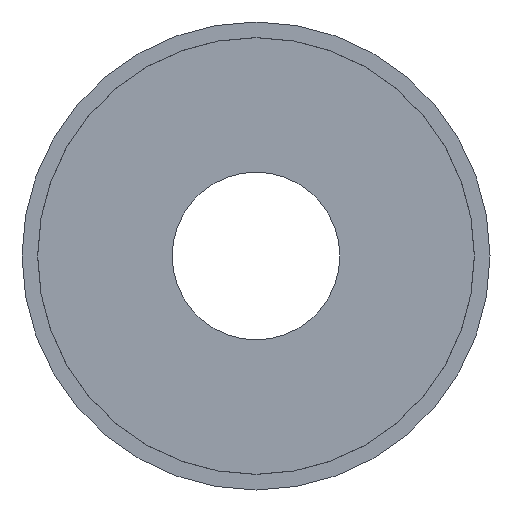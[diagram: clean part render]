
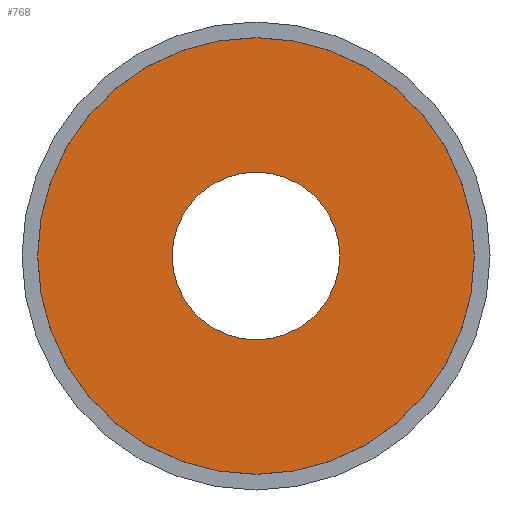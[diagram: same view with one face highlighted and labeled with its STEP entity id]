
A CAD part, front view. The second image highlights one B-rep face of the part: STEP entity #768.
In plain terms, the highlighted planar face has unit normal (0, -1, 0).
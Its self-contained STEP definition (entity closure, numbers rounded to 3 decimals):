
#23 = CARTESIAN_POINT ( 'NONE',  ( 0., -15., -27.99 ) ) ;
#24 = EDGE_LOOP ( 'NONE', ( #78, #54 ) ) ;
#25 = DIRECTION ( 'NONE',  ( -1., 0., 0. ) ) ;
#29 = DIRECTION ( 'NONE',  ( 0., 1., 0. ) ) ;
#54 = ORIENTED_EDGE ( 'NONE', *, *, #565, .T. ) ;
#78 = ORIENTED_EDGE ( 'NONE', *, *, #932, .T. ) ;
#101 = EDGE_CURVE ( 'NONE', #548, #140, #594, .T. ) ;
#119 = DIRECTION ( 'NONE',  ( 0., -1., 0. ) ) ;
#140 = VERTEX_POINT ( 'NONE', #23 ) ;
#154 = CIRCLE ( 'NONE', #427, 10.75 ) ;
#173 = DIRECTION ( 'NONE',  ( 0., -1., 0. ) ) ;
#183 = VERTEX_POINT ( 'NONE', #828 ) ;
#195 = FACE_BOUND ( 'NONE', #24, .T. ) ;
#222 = AXIS2_PLACEMENT_3D ( 'NONE', #797, #119, #338 ) ;
#224 = DIRECTION ( 'NONE',  ( 0., 1., 0. ) ) ;
#275 = DIRECTION ( 'NONE',  ( -1., 0., 0. ) ) ;
#296 = CARTESIAN_POINT ( 'NONE',  ( 0., -15., 0. ) ) ;
#319 = CARTESIAN_POINT ( 'NONE',  ( 0., -15., 27.99 ) ) ;
#333 = AXIS2_PLACEMENT_3D ( 'NONE', #296, #224, #275 ) ;
#336 = VERTEX_POINT ( 'NONE', #865 ) ;
#338 = DIRECTION ( 'NONE',  ( 0., 0., -1. ) ) ;
#354 = ORIENTED_EDGE ( 'NONE', *, *, #826, .T. ) ;
#401 = CIRCLE ( 'NONE', #222, 27.99 ) ;
#427 = AXIS2_PLACEMENT_3D ( 'NONE', #549, #29, #25 ) ;
#433 = FACE_OUTER_BOUND ( 'NONE', #639, .T. ) ;
#480 = DIRECTION ( 'NONE',  ( 1., 0., 0. ) ) ;
#495 = CIRCLE ( 'NONE', #333, 10.75 ) ;
#506 = AXIS2_PLACEMENT_3D ( 'NONE', #613, #771, #608 ) ;
#548 = VERTEX_POINT ( 'NONE', #319 ) ;
#549 = CARTESIAN_POINT ( 'NONE',  ( 0., -15., 0. ) ) ;
#565 = EDGE_CURVE ( 'NONE', #183, #336, #154, .T. ) ;
#582 = AXIS2_PLACEMENT_3D ( 'NONE', #622, #173, #480 ) ;
#594 = CIRCLE ( 'NONE', #506, 27.99 ) ;
#608 = DIRECTION ( 'NONE',  ( 0., 0., -1. ) ) ;
#613 = CARTESIAN_POINT ( 'NONE',  ( 0., -15., 0. ) ) ;
#622 = CARTESIAN_POINT ( 'NONE',  ( -30., -15., 0. ) ) ;
#639 = EDGE_LOOP ( 'NONE', ( #354, #856 ) ) ;
#682 = PLANE ( 'NONE',  #582 ) ;
#768 = ADVANCED_FACE ( 'NONE', ( #195, #433 ), #682, .T. ) ;
#771 = DIRECTION ( 'NONE',  ( 0., -1., 0. ) ) ;
#797 = CARTESIAN_POINT ( 'NONE',  ( 0., -15., 0. ) ) ;
#826 = EDGE_CURVE ( 'NONE', #140, #548, #401, .T. ) ;
#828 = CARTESIAN_POINT ( 'NONE',  ( 10.75, -15., 0. ) ) ;
#856 = ORIENTED_EDGE ( 'NONE', *, *, #101, .T. ) ;
#865 = CARTESIAN_POINT ( 'NONE',  ( -10.75, -15., 0. ) ) ;
#932 = EDGE_CURVE ( 'NONE', #336, #183, #495, .T. ) ;
